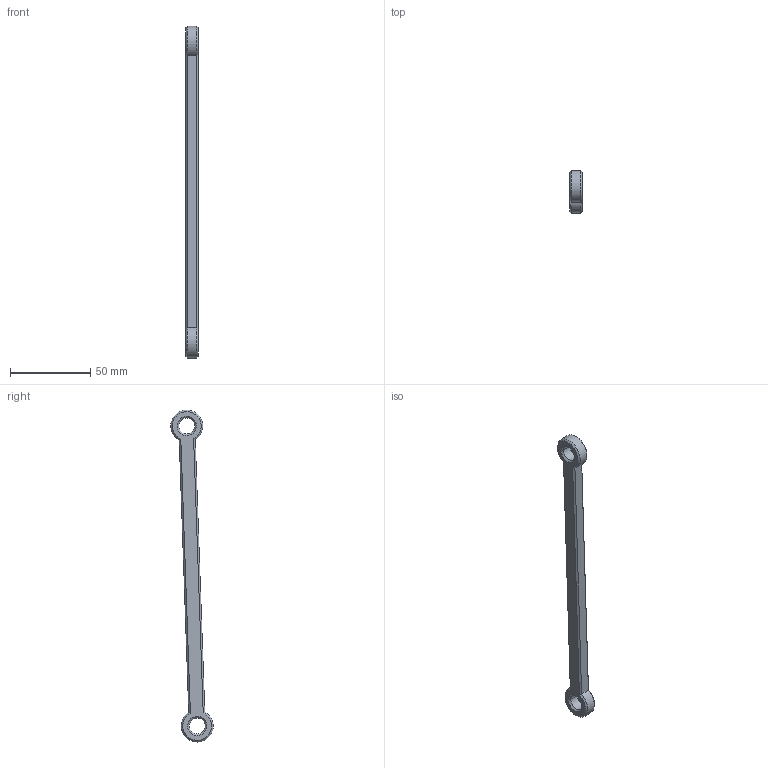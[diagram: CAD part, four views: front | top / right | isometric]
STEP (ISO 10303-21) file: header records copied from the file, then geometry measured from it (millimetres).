
FILE_DESCRIPTION((''),'2;1');
FILE_NAME('KD-D-503X_ANKLE_LINK-S_1','2025-07-12T16:44:04',('Administrator'),(''),'CREO PARAMETRIC BY PTC INC, 2022073','CREO PARAMETRIC BY PTC INC, 2022073','');
FILE_SCHEMA(('CONFIG_CONTROL_DESIGN'));
Length unit declared in the file: millimetre
Products named in the file (1): KD-D-503X_ANKLE_LINK-S_1
Bounding box: 8 x 26.54 x 207.47 mm (x, y, z)
Volume: 16735.3 mm3; surface area: 7784.3 mm2
Topology: 1 solids, 1 shells, 26 faces, 75 edges, 51 vertices
Faces by surface type: cone 12, plane 8, cylinder 6
Entity records: 954 total; most frequent: CARTESIAN_POINT 190, DIRECTION 162, ORIENTED_EDGE 150, EDGE_CURVE 75, AXIS2_PLACEMENT_3D 69, VERTEX_POINT 51, CIRCLE 43, EDGE_LOOP 30
